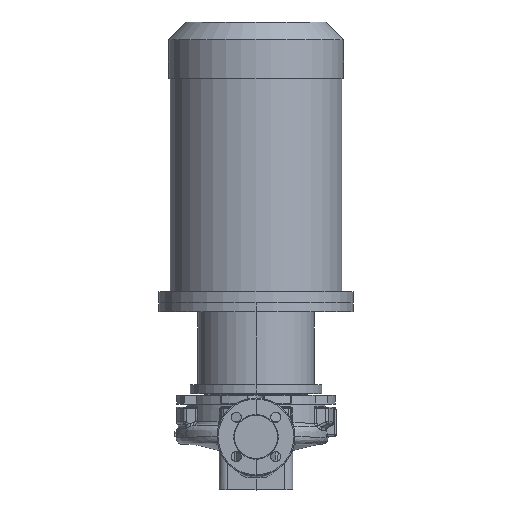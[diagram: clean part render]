
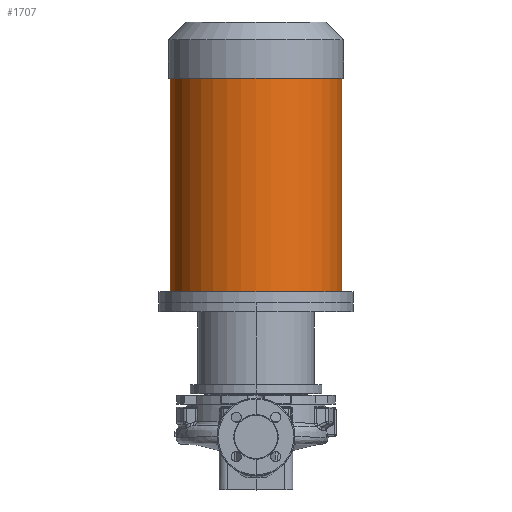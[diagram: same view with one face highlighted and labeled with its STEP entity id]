
A CAD part, top view. The second image highlights one B-rep face of the part: STEP entity #1707.
In plain terms, the highlighted cylindrical face has radius 154.5 mm (diameter 309 mm), a partial arc.
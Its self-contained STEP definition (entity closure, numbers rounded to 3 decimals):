
#504 = CARTESIAN_POINT ( 'NONE',  ( -154.5, 241.3, 0. ) ) ;
#1707 = ADVANCED_FACE ( 'NONE', ( #28883 ), #48965, .T. ) ;
#2060 = LINE ( 'NONE', #48637, #29963 ) ;
#2445 = VECTOR ( 'NONE', #25404, 1000. ) ;
#4916 = CARTESIAN_POINT ( 'NONE',  ( 0., 241.3, 0. ) ) ;
#5128 = CIRCLE ( 'NONE', #36470, 154.5 ) ;
#5502 = VERTEX_POINT ( 'NONE', #6767 ) ;
#6514 = CARTESIAN_POINT ( 'NONE',  ( -154.5, 261.3, 0. ) ) ;
#6767 = CARTESIAN_POINT ( 'NONE',  ( 154.5, 261.3, 0. ) ) ;
#9426 = DIRECTION ( 'NONE',  ( -1., 0., 0. ) ) ;
#13838 = EDGE_CURVE ( 'NONE', #17429, #5502, #2060, .T. ) ;
#17405 = EDGE_CURVE ( 'NONE', #37936, #17631, #59677, .T. ) ;
#17429 = VERTEX_POINT ( 'NONE', #49408 ) ;
#17631 = VERTEX_POINT ( 'NONE', #6514 ) ;
#19895 = DIRECTION ( 'NONE',  ( 0., -1., 0. ) ) ;
#22581 = CARTESIAN_POINT ( 'NONE',  ( 0., 261.3, 0. ) ) ;
#25404 = DIRECTION ( 'NONE',  ( 0., -1., 0. ) ) ;
#25731 = CIRCLE ( 'NONE', #32914, 154.5 ) ;
#28883 = FACE_OUTER_BOUND ( 'NONE', #40284, .T. ) ;
#29963 = VECTOR ( 'NONE', #63315, 1000. ) ;
#32158 = ORIENTED_EDGE ( 'NONE', *, *, #17405, .T. ) ;
#32914 = AXIS2_PLACEMENT_3D ( 'NONE', #49518, #19895, #59397 ) ;
#34764 = ORIENTED_EDGE ( 'NONE', *, *, #59713, .F. ) ;
#36470 = AXIS2_PLACEMENT_3D ( 'NONE', #22581, #37909, #52820 ) ;
#37909 = DIRECTION ( 'NONE',  ( 0., -1., 0. ) ) ;
#37936 = VERTEX_POINT ( 'NONE', #41660 ) ;
#40284 = EDGE_LOOP ( 'NONE', ( #45927, #59754, #32158, #34764 ) ) ;
#41660 = CARTESIAN_POINT ( 'NONE',  ( -154.5, 645.3, 0. ) ) ;
#44257 = DIRECTION ( 'NONE',  ( 0., -1., 0. ) ) ;
#45927 = ORIENTED_EDGE ( 'NONE', *, *, #13838, .F. ) ;
#48637 = CARTESIAN_POINT ( 'NONE',  ( 154.5, 241.3, 0. ) ) ;
#48965 = CYLINDRICAL_SURFACE ( 'NONE', #55897, 154.5 ) ;
#49408 = CARTESIAN_POINT ( 'NONE',  ( 154.5, 645.3, 0. ) ) ;
#49518 = CARTESIAN_POINT ( 'NONE',  ( 0., 645.3, 0. ) ) ;
#52820 = DIRECTION ( 'NONE',  ( -1., 0., 0. ) ) ;
#55897 = AXIS2_PLACEMENT_3D ( 'NONE', #4916, #44257, #9426 ) ;
#59397 = DIRECTION ( 'NONE',  ( -1., 0., 0. ) ) ;
#59677 = LINE ( 'NONE', #504, #2445 ) ;
#59713 = EDGE_CURVE ( 'NONE', #5502, #17631, #5128, .T. ) ;
#59754 = ORIENTED_EDGE ( 'NONE', *, *, #62456, .T. ) ;
#62456 = EDGE_CURVE ( 'NONE', #17429, #37936, #25731, .T. ) ;
#63315 = DIRECTION ( 'NONE',  ( 0., -1., 0. ) ) ;
